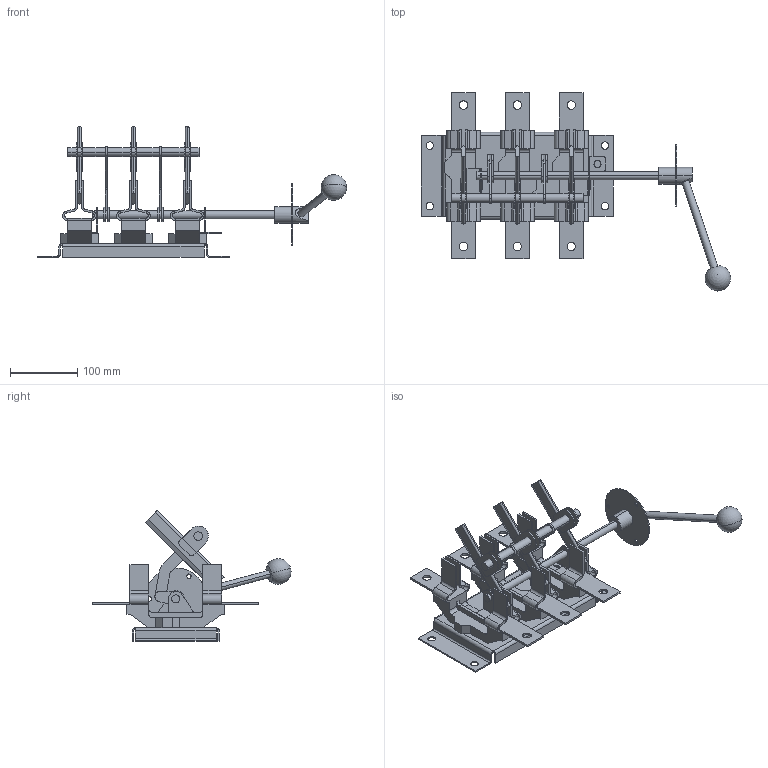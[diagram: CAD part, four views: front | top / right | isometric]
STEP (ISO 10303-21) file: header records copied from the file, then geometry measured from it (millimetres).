
FILE_DESCRIPTION (( 'STEP AP214' ), '1' );
FILE_NAME ('Ðàçúåäèíèòåëü ÐÁ-6Ï-630À-Ó3-ÊÝÀÇ.STEP', '2023-05-01T20:59:42', ( '' ), ( '' ), 'SwSTEP 2.0', 'SolidWorks 2018', '' );
FILE_SCHEMA (( 'AUTOMOTIVE_DESIGN' ));
Length unit declared in the file: millimetre
Products named in the file (1): Ðàçúåäèíèòåëü ÐÁ-6Ï-630À-Ó3-ÊÝÀÇ
Bounding box: 459.14 x 294.1 x 194.1 mm (x, y, z)
Volume: 767232.5 mm3; surface area: 312629.5 mm2
Topology: 6 solids, 6 shells, 552 faces, 1541 edges, 1004 vertices
Faces by surface type: plane 338, cylinder 212, sphere 2
Entity records: 23886 total; most frequent: CARTESIAN_POINT 3099, ORIENTED_EDGE 3072, DIRECTION 3066, EDGE_CURVE 1536, VECTOR 1106, LINE 1106, VERTEX_POINT 1001, AXIS2_PLACEMENT_3D 980
